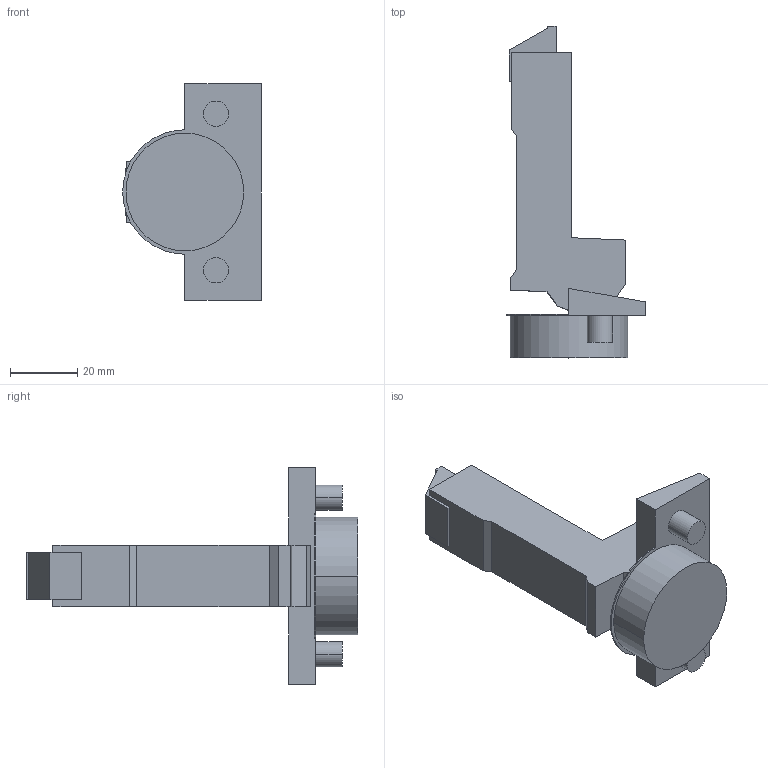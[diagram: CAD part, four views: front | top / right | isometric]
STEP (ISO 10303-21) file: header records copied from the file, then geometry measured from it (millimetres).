
FILE_DESCRIPTION (( 'STEP AP214' ), '1' );
FILE_NAME ('Scharnier T Impresso 95° MB_BB, K19.step', '2010-12-06T09:51:43', ( 'grass' ), ( '' ), 'SwSTEP 2.0', 'SolidWorks 2010', '' );
FILE_SCHEMA (( 'AUTOMOTIVE_DESIGN' ));
Length unit declared in the file: millimetre
Products named in the file (1): Scharnier T Impresso 95° MB_BB, K19
Bounding box: 41.25 x 98.7 x 64.5 mm (x, y, z)
Volume: 49736.8 mm3; surface area: 13569.5 mm2
Topology: 1 solids, 3 shells, 61 faces, 147 edges, 98 vertices
Faces by surface type: plane 43, cylinder 18
Entity records: 1807 total; most frequent: DIRECTION 307, CARTESIAN_POINT 307, ORIENTED_EDGE 294, EDGE_CURVE 147, LINE 111, VECTOR 111, VERTEX_POINT 98, AXIS2_PLACEMENT_3D 98
